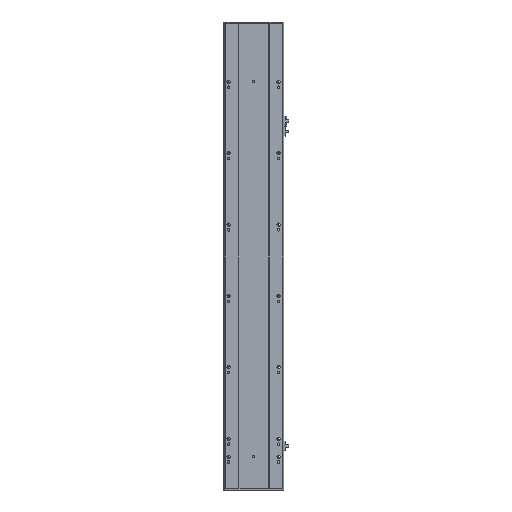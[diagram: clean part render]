
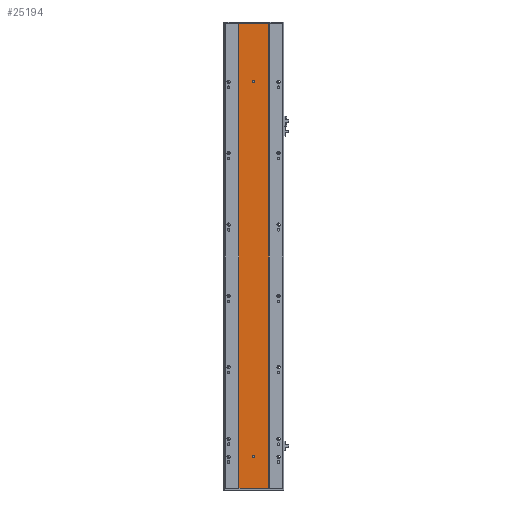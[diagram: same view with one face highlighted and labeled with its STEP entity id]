
A CAD part, front view. The second image highlights one B-rep face of the part: STEP entity #25194.
In plain terms, the highlighted planar face has unit normal (0, -1, 0).
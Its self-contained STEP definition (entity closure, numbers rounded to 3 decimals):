
#511 = EDGE_CURVE ( 'NONE', #19879, #11201, #9208, .T. ) ;
#600 = CARTESIAN_POINT ( 'NONE',  ( 42.916, 2.57, 1301. ) ) ;
#742 = LINE ( 'NONE', #10678, #11447 ) ;
#847 = EDGE_CURVE ( 'NONE', #13976, #12468, #742, .T. ) ;
#869 = FACE_BOUND ( 'NONE', #2681, .T. ) ;
#950 = CARTESIAN_POINT ( 'NONE',  ( 42.916, 2.57, 0. ) ) ;
#1088 = CARTESIAN_POINT ( 'NONE',  ( 85., 2.57, 1138.5 ) ) ;
#1310 = CIRCLE ( 'NONE', #23059, 3. ) ;
#1577 = CARTESIAN_POINT ( 'NONE',  ( 85., 2.57, 85.5 ) ) ;
#2086 = CARTESIAN_POINT ( 'NONE',  ( 126.916, 2.57, 1301. ) ) ;
#2564 = AXIS2_PLACEMENT_3D ( 'NONE', #1088, #17958, #6184 ) ;
#2681 = EDGE_LOOP ( 'NONE', ( #7020, #10391 ) ) ;
#3008 = ORIENTED_EDGE ( 'NONE', *, *, #21226, .F. ) ;
#3965 = CIRCLE ( 'NONE', #5678, 3. ) ;
#3981 = VERTEX_POINT ( 'NONE', #600 ) ;
#4351 = VERTEX_POINT ( 'NONE', #950 ) ;
#4483 = CARTESIAN_POINT ( 'NONE',  ( 85., 2.57, 1135.5 ) ) ;
#5217 = EDGE_CURVE ( 'NONE', #11201, #19879, #22451, .T. ) ;
#5579 = CARTESIAN_POINT ( 'NONE',  ( 42.916, 2.57, 0. ) ) ;
#5591 = FACE_BOUND ( 'NONE', #11230, .T. ) ;
#5678 = AXIS2_PLACEMENT_3D ( 'NONE', #10963, #24964, #12991 ) ;
#6184 = DIRECTION ( 'NONE',  ( 0., 0., 1. ) ) ;
#6810 = ORIENTED_EDGE ( 'NONE', *, *, #847, .T. ) ;
#7020 = ORIENTED_EDGE ( 'NONE', *, *, #15241, .T. ) ;
#7374 = CARTESIAN_POINT ( 'NONE',  ( 42.916, 2.57, 0. ) ) ;
#7604 = DIRECTION ( 'NONE',  ( 0., 1., 0. ) ) ;
#7774 = DIRECTION ( 'NONE',  ( 0., 1., 0. ) ) ;
#7970 = CARTESIAN_POINT ( 'NONE',  ( 42.916, 2.57, 1301. ) ) ;
#8100 = EDGE_CURVE ( 'NONE', #12468, #3981, #26034, .T. ) ;
#8631 = VECTOR ( 'NONE', #25243, 1000. ) ;
#9148 = CARTESIAN_POINT ( 'NONE',  ( 85., 2.57, 91.5 ) ) ;
#9208 = CIRCLE ( 'NONE', #2564, 3. ) ;
#9583 = ORIENTED_EDGE ( 'NONE', *, *, #5217, .T. ) ;
#9719 = EDGE_CURVE ( 'NONE', #13976, #4351, #9954, .T. ) ;
#9800 = DIRECTION ( 'NONE',  ( 0., 0., 1. ) ) ;
#9954 = LINE ( 'NONE', #7374, #15330 ) ;
#10123 = DIRECTION ( 'NONE',  ( 0., 1., 0. ) ) ;
#10254 = EDGE_CURVE ( 'NONE', #22312, #15681, #3965, .T. ) ;
#10391 = ORIENTED_EDGE ( 'NONE', *, *, #10254, .T. ) ;
#10678 = CARTESIAN_POINT ( 'NONE',  ( 126.916, 2.57, 0. ) ) ;
#10963 = CARTESIAN_POINT ( 'NONE',  ( 85., 2.57, 88.5 ) ) ;
#11201 = VERTEX_POINT ( 'NONE', #4483 ) ;
#11230 = EDGE_LOOP ( 'NONE', ( #9583, #20828 ) ) ;
#11447 = VECTOR ( 'NONE', #9800, 1000. ) ;
#11574 = FACE_OUTER_BOUND ( 'NONE', #22521, .T. ) ;
#12457 = ORIENTED_EDGE ( 'NONE', *, *, #8100, .T. ) ;
#12468 = VERTEX_POINT ( 'NONE', #2086 ) ;
#12991 = DIRECTION ( 'NONE',  ( 0., 0., 1. ) ) ;
#13275 = CARTESIAN_POINT ( 'NONE',  ( 42.916, 2.57, 0. ) ) ;
#13308 = AXIS2_PLACEMENT_3D ( 'NONE', #19797, #7774, #21788 ) ;
#13976 = VERTEX_POINT ( 'NONE', #25453 ) ;
#15158 = ORIENTED_EDGE ( 'NONE', *, *, #9719, .F. ) ;
#15241 = EDGE_CURVE ( 'NONE', #15681, #22312, #1310, .T. ) ;
#15330 = VECTOR ( 'NONE', #21405, 1000. ) ;
#15681 = VERTEX_POINT ( 'NONE', #1577 ) ;
#17958 = DIRECTION ( 'NONE',  ( 0., 1., 0. ) ) ;
#19146 = AXIS2_PLACEMENT_3D ( 'NONE', #5579, #7604, #21632 ) ;
#19622 = PLANE ( 'NONE',  #19146 ) ;
#19797 = CARTESIAN_POINT ( 'NONE',  ( 85., 2.57, 1138.5 ) ) ;
#19879 = VERTEX_POINT ( 'NONE', #23773 ) ;
#19931 = LINE ( 'NONE', #13275, #8631 ) ;
#20828 = ORIENTED_EDGE ( 'NONE', *, *, #511, .T. ) ;
#21226 = EDGE_CURVE ( 'NONE', #4351, #3981, #19931, .T. ) ;
#21324 = VECTOR ( 'NONE', #21997, 1000. ) ;
#21405 = DIRECTION ( 'NONE',  ( -1., 0., 0. ) ) ;
#21632 = DIRECTION ( 'NONE',  ( 0., 0., 1. ) ) ;
#21788 = DIRECTION ( 'NONE',  ( 0., 0., 1. ) ) ;
#21997 = DIRECTION ( 'NONE',  ( -1., 0., 0. ) ) ;
#22148 = CARTESIAN_POINT ( 'NONE',  ( 85., 2.57, 88.5 ) ) ;
#22312 = VERTEX_POINT ( 'NONE', #9148 ) ;
#22451 = CIRCLE ( 'NONE', #13308, 3. ) ;
#22521 = EDGE_LOOP ( 'NONE', ( #12457, #3008, #15158, #6810 ) ) ;
#23059 = AXIS2_PLACEMENT_3D ( 'NONE', #22148, #10123, #24173 ) ;
#23773 = CARTESIAN_POINT ( 'NONE',  ( 85., 2.57, 1141.5 ) ) ;
#24173 = DIRECTION ( 'NONE',  ( 0., 0., 1. ) ) ;
#24964 = DIRECTION ( 'NONE',  ( 0., 1., 0. ) ) ;
#25194 = ADVANCED_FACE ( 'NONE', ( #869, #5591, #11574 ), #19622, .F. ) ;
#25243 = DIRECTION ( 'NONE',  ( 0., 0., 1. ) ) ;
#25453 = CARTESIAN_POINT ( 'NONE',  ( 126.916, 2.57, 0. ) ) ;
#26034 = LINE ( 'NONE', #7970, #21324 ) ;
